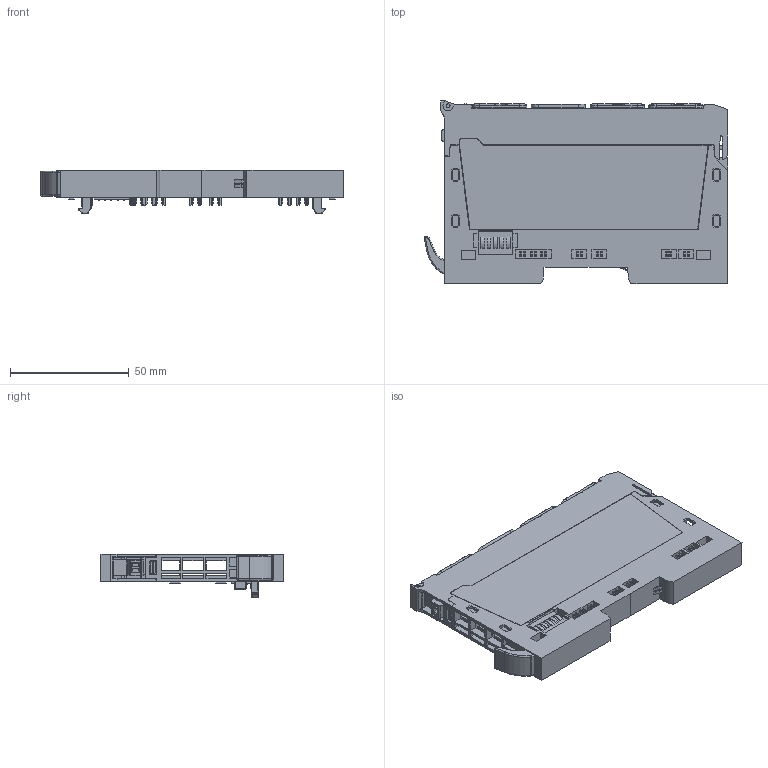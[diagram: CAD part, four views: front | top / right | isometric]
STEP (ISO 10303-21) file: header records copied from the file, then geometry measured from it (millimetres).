
FILE_DESCRIPTION(('CATIA V5R20 STEP214','CAx-IF Rec.Pracs.--- Model Styling and Organization---1.2---2011-12-15'),'2;1');
FILE_NAME('Z:\w011374_CT05723\ep-5261_ur20-1com-232-485-422.stp','2016-08-12T07:02:18+00:00',('Weidmueller Interface'),('WI'),'CATIA Version 5-6 Release 2014 SP4','CATIA V5 STEP AP214','none');
FILE_SCHEMA(('AUTOMOTIVE_DESIGN { 1 0 10303 214 1 1 1 1 }'));
Products named in the file (1): EP-5261_UR20-1COM-232-485-422
Bounding box: 127.88 x 77.45 x 18.5 mm (x, y, z)
Volume: 63293.1 mm3; surface area: 72379.1 mm2
Topology: 20 solids, 32 shells, 5546 faces, 15313 edges, 9896 vertices
Faces by surface type: plane 3744, cylinder 918, bspline 481, cone 254, torus 57, revolution 48, sphere 32, extrusion 12
Entity records: 193522 total; most frequent: CARTESIAN_POINT 59022, ORIENTED_EDGE 30552, DIRECTION 20028, EDGE_CURVE 15276, VECTOR 11282, LINE 11270, VERTEX_POINT 9896, EDGE_LOOP 5796
